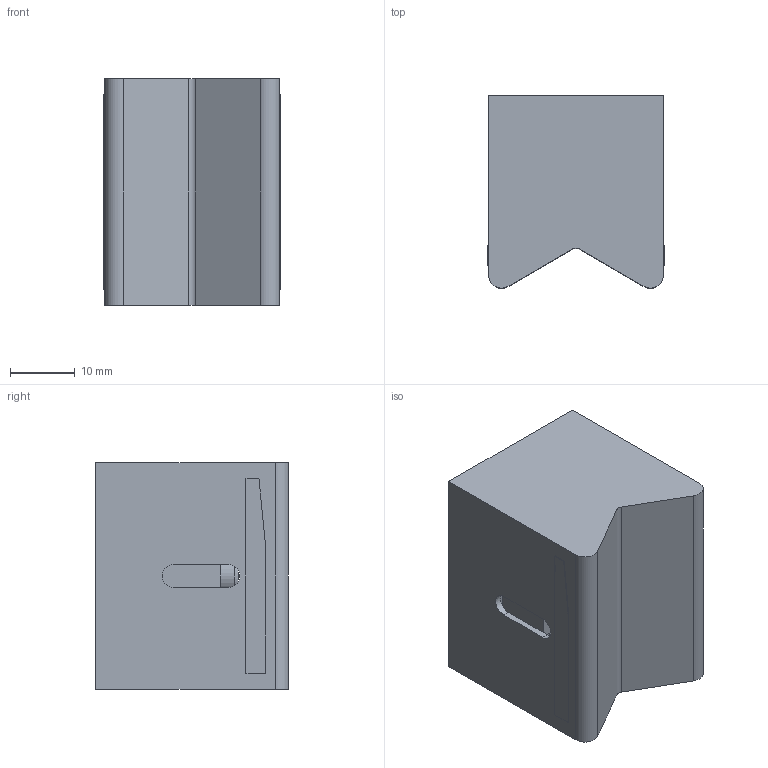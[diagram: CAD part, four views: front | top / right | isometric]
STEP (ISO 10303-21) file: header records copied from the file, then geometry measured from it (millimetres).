
FILE_DESCRIPTION(/* description */ (''),/* implementation_level */ '2;1');
FILE_NAME(/* name */ 'MGSS-17982-1.step',/* time_stamp */ '2023-06-01T16:57:45+09:00',/* author */ (''),/* organization */ (''),/* preprocessor_version */ 'ST-DEVELOPER v19.2',/* originating_system */ 'Autodesk Translation Framework v12.4.0.73',/* authorisation */ '');
FILE_SCHEMA (('AUTOMOTIVE_DESIGN { 1 0 10303 214 3 1 1 }'));
Length unit declared in the file: millimetre
Products named in the file (2): MGSS-17982-1; SSHS-M6-20
Assembly tree (1 placements, depth 2):
  MGSS-17982-1
    SSHS-M6-20
Bounding box: 27.2 x 29.74 x 35 mm (x, y, z)
Volume: 10432.7 mm3; surface area: 13323.9 mm2
Topology: 7 solids, 7 shells, 75 faces, 171 edges, 114 vertices
Faces by surface type: plane 56, cylinder 18, cone 1
Full cylindrical faces by diameter (mm): 4.234 x2, 6 x2, 6.5 x1, 10 x1, 13 x1, 14.5 x1
Entity records: 2218 total; most frequent: DIRECTION 365, CARTESIAN_POINT 363, ORIENTED_EDGE 342, EDGE_CURVE 171, LINE 133, VECTOR 133, AXIS2_PLACEMENT_3D 116, VERTEX_POINT 114
